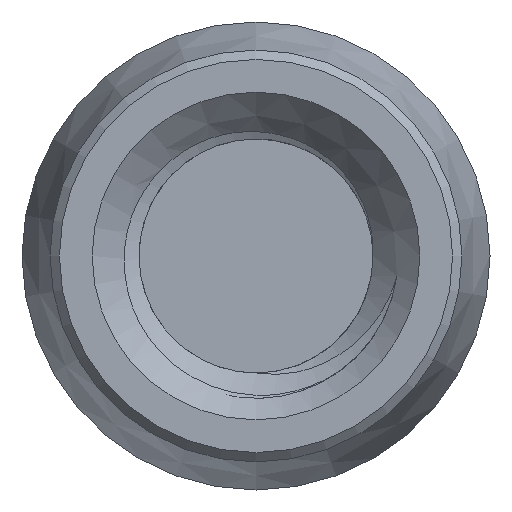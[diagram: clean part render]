
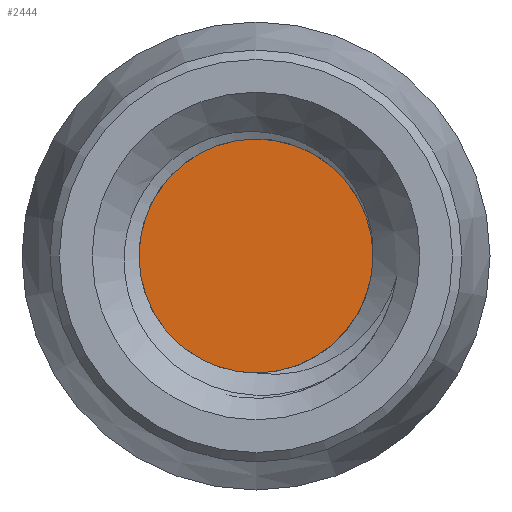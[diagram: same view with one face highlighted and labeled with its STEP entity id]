
A CAD part, front view. The second image highlights one B-rep face of the part: STEP entity #2444.
In plain terms, the highlighted planar face has unit normal (0, -1, 0).
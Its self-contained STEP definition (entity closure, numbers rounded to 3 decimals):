
#178 = EDGE_CURVE ( 'NONE', #1331, #1331, #2216, .T. ) ;
#425 = AXIS2_PLACEMENT_3D ( 'NONE', #3627, #1201, #1820 ) ;
#454 = CARTESIAN_POINT ( 'NONE',  ( 0., 11., 2.5 ) ) ;
#527 = DIRECTION ( 'NONE',  ( 0., 1., 0. ) ) ;
#972 = AXIS2_PLACEMENT_3D ( 'NONE', #1430, #527, #2877 ) ;
#1201 = DIRECTION ( 'NONE',  ( 0., 1., 0. ) ) ;
#1204 = ORIENTED_EDGE ( 'NONE', *, *, #178, .F. ) ;
#1331 = VERTEX_POINT ( 'NONE', #454 ) ;
#1430 = CARTESIAN_POINT ( 'NONE',  ( 0., 11., 0. ) ) ;
#1820 = DIRECTION ( 'NONE',  ( 0., 0., 1. ) ) ;
#2216 = CIRCLE ( 'NONE', #972, 2.5 ) ;
#2281 = FACE_OUTER_BOUND ( 'NONE', #3321, .T. ) ;
#2444 = ADVANCED_FACE ( 'NONE', ( #2281 ), #3890, .F. ) ;
#2877 = DIRECTION ( 'NONE',  ( 0., 0., 1. ) ) ;
#3321 = EDGE_LOOP ( 'NONE', ( #1204 ) ) ;
#3627 = CARTESIAN_POINT ( 'NONE',  ( 0., 11., 0. ) ) ;
#3890 = PLANE ( 'NONE',  #425 ) ;
